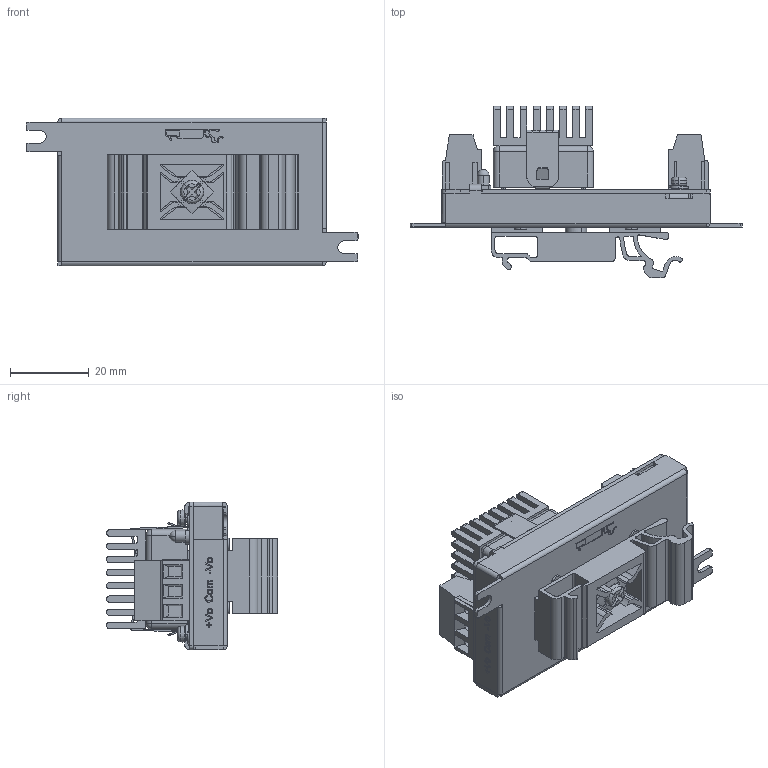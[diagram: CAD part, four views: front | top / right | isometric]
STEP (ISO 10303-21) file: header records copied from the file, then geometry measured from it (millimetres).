
FILE_DESCRIPTION (( 'STEP AP214' ), '1' );
FILE_NAME ('DIN-ohneTrim.STEP', '2024-12-05T13:24:29', ( '' ), ( '' ), 'SwSTEP 2.0', 'SolidWorks 2024', '' );
FILE_SCHEMA (( 'AUTOMOTIVE_DESIGN' ));
Length unit declared in the file: millimetre
Products named in the file (1): DIN-ohneTrim
Bounding box: 84.2 x 43.4 x 37.5 mm (x, y, z)
Volume: 17518.2 mm3; surface area: 29901.8 mm2
Topology: 2 solids, 3 shells, 1690 faces, 4668 edges, 3053 vertices
Faces by surface type: plane 988, cylinder 533, bspline 92, cone 41, torus 26, sphere 10
Entity records: 88730 total; most frequent: CARTESIAN_POINT 27444, ORIENTED_EDGE 9316, DIRECTION 8384, EDGE_CURVE 4658, VERTEX_POINT 3053, LINE 2986, VECTOR 2986, AXIS2_PLACEMENT_3D 2699
